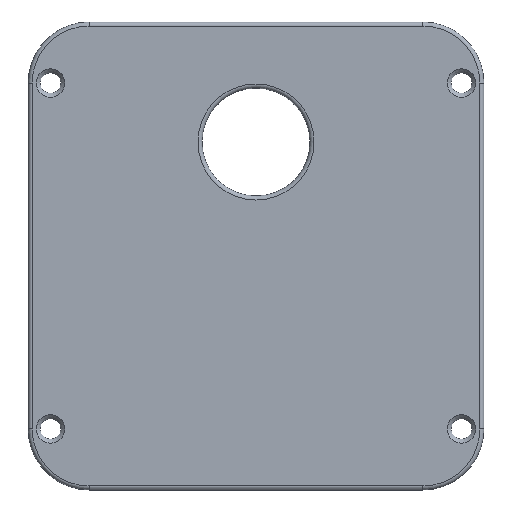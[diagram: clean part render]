
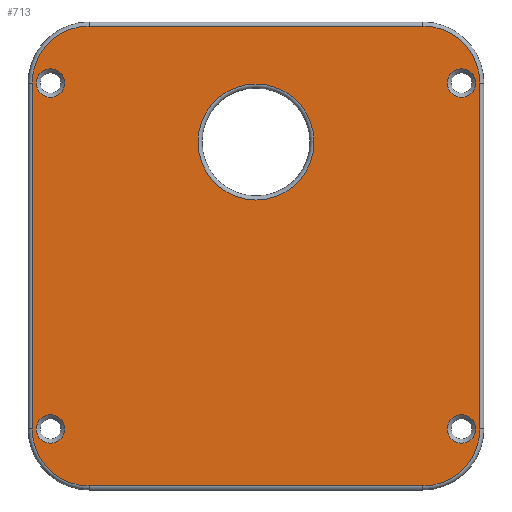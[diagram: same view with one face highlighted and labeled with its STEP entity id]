
A CAD part, top view. The second image highlights one B-rep face of the part: STEP entity #713.
In plain terms, the highlighted planar face has unit normal (0, 0, 1).
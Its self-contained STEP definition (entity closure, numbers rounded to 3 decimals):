
#20=FACE_BOUND('',#199,.T.);
#21=FACE_BOUND('',#200,.T.);
#22=FACE_BOUND('',#201,.T.);
#23=FACE_BOUND('',#202,.T.);
#24=FACE_BOUND('',#203,.T.);
#32=PLANE('',#781);
#44=LINE('',#1146,#90);
#45=LINE('',#1150,#91);
#46=LINE('',#1154,#92);
#47=LINE('',#1158,#93);
#90=VECTOR('',#900,1.);
#91=VECTOR('',#903,1.);
#92=VECTOR('',#906,1.);
#93=VECTOR('',#909,1.);
#157=FACE_OUTER_BOUND('',#198,.T.);
#198=EDGE_LOOP('',(#502,#503,#504,#505,#506,#507,#508,#509));
#199=EDGE_LOOP('',(#510,#511));
#200=EDGE_LOOP('',(#512,#513));
#201=EDGE_LOOP('',(#514,#515));
#202=EDGE_LOOP('',(#516,#517));
#203=EDGE_LOOP('',(#518));
#251=CIRCLE('',#779,2.85);
#253=CIRCLE('',#782,2.8);
#254=CIRCLE('',#783,2.8);
#255=CIRCLE('',#784,2.8);
#256=CIRCLE('',#785,2.8);
#257=CIRCLE('',#786,0.7);
#258=CIRCLE('',#787,0.7);
#259=CIRCLE('',#788,0.7);
#260=CIRCLE('',#789,0.7);
#261=CIRCLE('',#790,0.7);
#262=CIRCLE('',#791,0.7);
#263=CIRCLE('',#792,0.7);
#264=CIRCLE('',#793,0.7);
#312=VERTEX_POINT('',#1140);
#313=VERTEX_POINT('',#1144);
#314=VERTEX_POINT('',#1145);
#315=VERTEX_POINT('',#1147);
#316=VERTEX_POINT('',#1149);
#317=VERTEX_POINT('',#1151);
#318=VERTEX_POINT('',#1153);
#319=VERTEX_POINT('',#1155);
#320=VERTEX_POINT('',#1157);
#321=VERTEX_POINT('',#1160);
#322=VERTEX_POINT('',#1161);
#323=VERTEX_POINT('',#1164);
#324=VERTEX_POINT('',#1165);
#325=VERTEX_POINT('',#1168);
#326=VERTEX_POINT('',#1169);
#327=VERTEX_POINT('',#1172);
#328=VERTEX_POINT('',#1173);
#386=EDGE_CURVE('',#312,#312,#251,.T.);
#388=EDGE_CURVE('',#313,#314,#44,.T.);
#389=EDGE_CURVE('',#314,#315,#253,.T.);
#390=EDGE_CURVE('',#315,#316,#45,.T.);
#391=EDGE_CURVE('',#316,#317,#254,.T.);
#392=EDGE_CURVE('',#317,#318,#46,.T.);
#393=EDGE_CURVE('',#318,#319,#255,.T.);
#394=EDGE_CURVE('',#319,#320,#47,.T.);
#395=EDGE_CURVE('',#320,#313,#256,.T.);
#396=EDGE_CURVE('',#321,#322,#257,.T.);
#397=EDGE_CURVE('',#322,#321,#258,.T.);
#398=EDGE_CURVE('',#323,#324,#259,.T.);
#399=EDGE_CURVE('',#324,#323,#260,.T.);
#400=EDGE_CURVE('',#325,#326,#261,.T.);
#401=EDGE_CURVE('',#326,#325,#262,.T.);
#402=EDGE_CURVE('',#327,#328,#263,.T.);
#403=EDGE_CURVE('',#328,#327,#264,.T.);
#502=ORIENTED_EDGE('',*,*,#388,.T.);
#503=ORIENTED_EDGE('',*,*,#389,.T.);
#504=ORIENTED_EDGE('',*,*,#390,.T.);
#505=ORIENTED_EDGE('',*,*,#391,.T.);
#506=ORIENTED_EDGE('',*,*,#392,.T.);
#507=ORIENTED_EDGE('',*,*,#393,.T.);
#508=ORIENTED_EDGE('',*,*,#394,.T.);
#509=ORIENTED_EDGE('',*,*,#395,.T.);
#510=ORIENTED_EDGE('',*,*,#396,.T.);
#511=ORIENTED_EDGE('',*,*,#397,.T.);
#512=ORIENTED_EDGE('',*,*,#398,.T.);
#513=ORIENTED_EDGE('',*,*,#399,.T.);
#514=ORIENTED_EDGE('',*,*,#400,.T.);
#515=ORIENTED_EDGE('',*,*,#401,.T.);
#516=ORIENTED_EDGE('',*,*,#402,.T.);
#517=ORIENTED_EDGE('',*,*,#403,.T.);
#518=ORIENTED_EDGE('',*,*,#386,.F.);
#713=ADVANCED_FACE('',(#157,#20,#21,#22,#23,#24),#32,.T.);
#779=AXIS2_PLACEMENT_3D('',#1141,#894,#895);
#781=AXIS2_PLACEMENT_3D('',#1143,#898,#899);
#782=AXIS2_PLACEMENT_3D('',#1148,#901,#902);
#783=AXIS2_PLACEMENT_3D('',#1152,#904,#905);
#784=AXIS2_PLACEMENT_3D('',#1156,#907,#908);
#785=AXIS2_PLACEMENT_3D('',#1159,#910,#911);
#786=AXIS2_PLACEMENT_3D('',#1162,#912,#913);
#787=AXIS2_PLACEMENT_3D('',#1163,#914,#915);
#788=AXIS2_PLACEMENT_3D('',#1166,#916,#917);
#789=AXIS2_PLACEMENT_3D('',#1167,#918,#919);
#790=AXIS2_PLACEMENT_3D('',#1170,#920,#921);
#791=AXIS2_PLACEMENT_3D('',#1171,#922,#923);
#792=AXIS2_PLACEMENT_3D('',#1174,#924,#925);
#793=AXIS2_PLACEMENT_3D('',#1175,#926,#927);
#894=DIRECTION('center_axis',(0.,0.,1.));
#895=DIRECTION('ref_axis',(-1.,0.,0.));
#898=DIRECTION('center_axis',(0.,0.,1.));
#899=DIRECTION('ref_axis',(1.,0.,0.));
#900=DIRECTION('',(-1.,0.,0.));
#901=DIRECTION('center_axis',(0.,0.,1.));
#902=DIRECTION('ref_axis',(1.,0.,0.));
#903=DIRECTION('',(0.,-1.,0.));
#904=DIRECTION('center_axis',(0.,0.,1.));
#905=DIRECTION('ref_axis',(1.,0.,0.));
#906=DIRECTION('',(1.,0.,0.));
#907=DIRECTION('center_axis',(0.,0.,1.));
#908=DIRECTION('ref_axis',(1.,0.,0.));
#909=DIRECTION('',(0.,1.,0.));
#910=DIRECTION('center_axis',(0.,0.,1.));
#911=DIRECTION('ref_axis',(1.,0.,0.));
#912=DIRECTION('center_axis',(0.,0.,-1.));
#913=DIRECTION('ref_axis',(1.,0.,0.));
#914=DIRECTION('center_axis',(0.,0.,-1.));
#915=DIRECTION('ref_axis',(1.,0.,0.));
#916=DIRECTION('center_axis',(0.,0.,-1.));
#917=DIRECTION('ref_axis',(1.,0.,0.));
#918=DIRECTION('center_axis',(0.,0.,-1.));
#919=DIRECTION('ref_axis',(1.,0.,0.));
#920=DIRECTION('center_axis',(0.,0.,-1.));
#921=DIRECTION('ref_axis',(1.,0.,0.));
#922=DIRECTION('center_axis',(0.,0.,-1.));
#923=DIRECTION('ref_axis',(1.,0.,0.));
#924=DIRECTION('center_axis',(0.,0.,-1.));
#925=DIRECTION('ref_axis',(1.,0.,0.));
#926=DIRECTION('center_axis',(0.,0.,-1.));
#927=DIRECTION('ref_axis',(1.,0.,0.));
#1140=CARTESIAN_POINT('',(2.85,5.6,0.6));
#1141=CARTESIAN_POINT('Origin',(0.,5.6,0.6));
#1143=CARTESIAN_POINT('Origin',(0.,0.,0.6));
#1144=CARTESIAN_POINT('',(8.2,11.3,0.6));
#1145=CARTESIAN_POINT('',(-8.2,11.3,0.6));
#1146=CARTESIAN_POINT('',(-8.2,11.3,0.6));
#1147=CARTESIAN_POINT('',(-11.,8.5,0.6));
#1148=CARTESIAN_POINT('Origin',(-8.2,8.5,0.6));
#1149=CARTESIAN_POINT('',(-11.,-8.5,0.6));
#1150=CARTESIAN_POINT('',(-11.,-8.5,0.6));
#1151=CARTESIAN_POINT('',(-8.2,-11.3,0.6));
#1152=CARTESIAN_POINT('Origin',(-8.2,-8.5,0.6));
#1153=CARTESIAN_POINT('',(8.2,-11.3,0.6));
#1154=CARTESIAN_POINT('',(8.2,-11.3,0.6));
#1155=CARTESIAN_POINT('',(11.,-8.5,0.6));
#1156=CARTESIAN_POINT('Origin',(8.2,-8.5,0.6));
#1157=CARTESIAN_POINT('',(11.,8.5,0.6));
#1158=CARTESIAN_POINT('',(11.,8.5,0.6));
#1159=CARTESIAN_POINT('Origin',(8.2,8.5,0.6));
#1160=CARTESIAN_POINT('',(-9.4,8.5,0.6));
#1161=CARTESIAN_POINT('',(-10.8,8.5,0.6));
#1162=CARTESIAN_POINT('Origin',(-10.1,8.5,0.6));
#1163=CARTESIAN_POINT('Origin',(-10.1,8.5,0.6));
#1164=CARTESIAN_POINT('',(-9.4,-8.5,0.6));
#1165=CARTESIAN_POINT('',(-10.8,-8.5,0.6));
#1166=CARTESIAN_POINT('Origin',(-10.1,-8.5,0.6));
#1167=CARTESIAN_POINT('Origin',(-10.1,-8.5,0.6));
#1168=CARTESIAN_POINT('',(10.8,-8.5,0.6));
#1169=CARTESIAN_POINT('',(9.4,-8.5,0.6));
#1170=CARTESIAN_POINT('Origin',(10.1,-8.5,0.6));
#1171=CARTESIAN_POINT('Origin',(10.1,-8.5,0.6));
#1172=CARTESIAN_POINT('',(10.8,8.5,0.6));
#1173=CARTESIAN_POINT('',(9.4,8.5,0.6));
#1174=CARTESIAN_POINT('Origin',(10.1,8.5,0.6));
#1175=CARTESIAN_POINT('Origin',(10.1,8.5,0.6));
